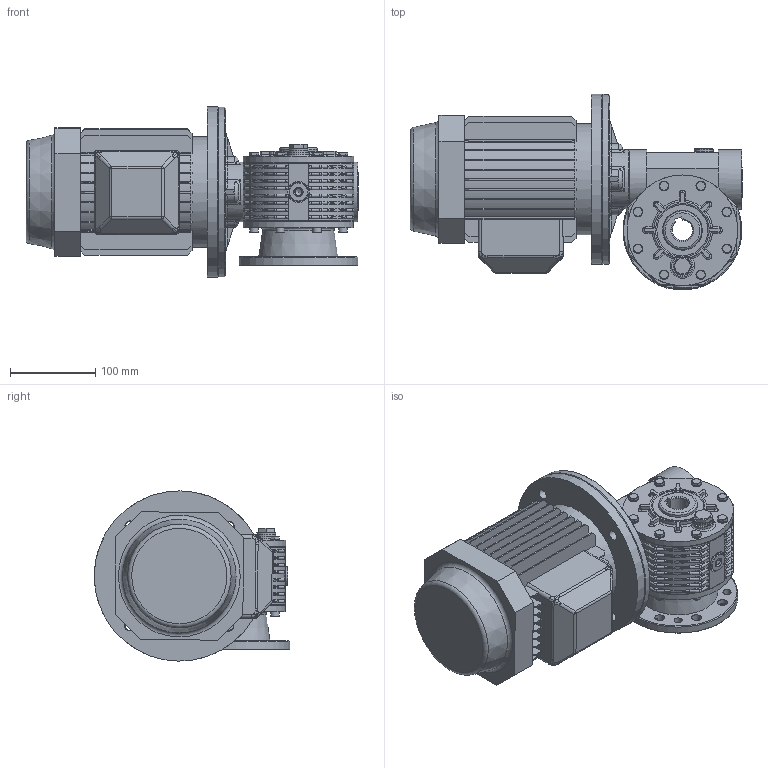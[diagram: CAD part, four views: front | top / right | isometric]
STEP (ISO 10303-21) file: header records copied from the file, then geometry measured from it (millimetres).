
FILE_DESCRIPTION((''),'2;1');
FILE_NAME('Y:\Archivi Inventor\Prog_01\GRAND_20\figuirini\mrv20_sito\80\MRV---20---F2-----80----B5--3D.stp','2013-02-08T16:23:50',('tech3'),(''),'Autodesk Inventor 2013','Autodesk Inventor 2013','');
FILE_SCHEMA(('AUTOMOTIVE_DESIGN { 1 0 10303 214 1 1 1 1 }'));
Length unit declared in the file: millimetre
Products named in the file (18): fig_mrv20_80_b5; mrv20; 0102001; Coperchietto_47x7; Guarnizione 3_8 GAS; Tappo 3_8 GAS_esagn_incsst; mozzo_corona_fig; PARAOLIO 45x60x8; 0102029; 0102002-A1_fig; 0102003; ISO 4762 M6 x 16; DIN EN 24017 M6 x 12; Tappo3_8 GAS; 0102028; DIN EN ISO 4762 M6 x 20; 0102006; motori B5 80
Assembly tree (40 placements, depth 3):
  fig_mrv20_80_b5
    mrv20
      0102001
      Coperchietto_47x7
      Guarnizione 3_8 GAS  x3
      Tappo 3_8 GAS_esagn_incsst  x2
      mozzo_corona_fig
      PARAOLIO 45x60x8  x2
      0102029  x2
      0102002-A1_fig
      0102003
      ISO 4762 M6 x 16  x8
      DIN EN 24017 M6 x 12  x9
      Tappo3_8 GAS
      0102028
      DIN EN ISO 4762 M6 x 20  x4
    0102006
    motori B5 80
Bounding box: 390 x 229.73 x 199.99 mm (x, y, z)
Volume: 5422171.2 mm3; surface area: 742473.7 mm2
Topology: 39 solids, 51 shells, 2069 faces, 5150 edges, 3182 vertices
Faces by surface type: plane 874, cylinder 647, torus 192, bspline 176, cone 176, sphere 4
Full cylindrical faces by diameter (mm): 2 x2, 4.917 x20, 6 x21, 6.5 x28, 6.75 x4, 7 x8, 8 x2, 8.88 x9, 9.5 x4, 10 x12, 11 x12, 11.5 x8, 12 x4, 13.046 x1, 14.95 x3, 16.3 x3, 16.5 x2, 19 x1, 22 x6, 25 x2, 40 x1, 41.36 x1, 44.4 x2, 45 x4, 47 x4, 49.5 x1, 50.605 x2, 55.5 x2, 60 x5, 69.5 x1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
Entity records: 60786 total; most frequent: CARTESIAN_POINT 19780, DIRECTION 8502, ORIENTED_EDGE 8136, EDGE_CURVE 4068, AXIS2_PLACEMENT_3D 3361, VERTEX_POINT 2673, EDGE_LOOP 2103, VECTOR 1780
